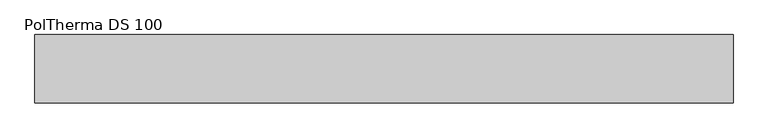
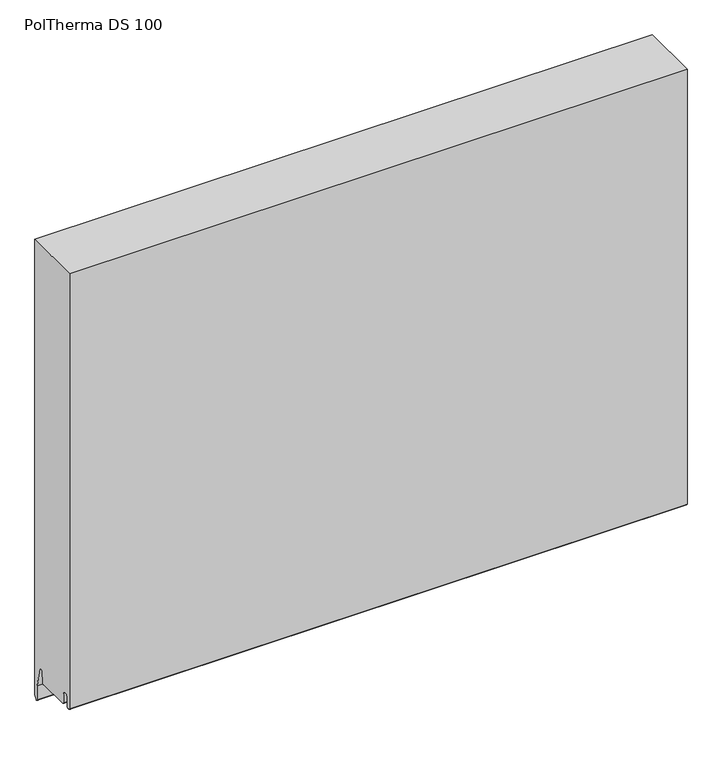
"""IFC4 building model written with IfcOpenShell, lengths in millimetres: plate geometry, Europanels_Poltherma DS_Hz : PolTherma DS 100."""

from ifc_helpers import new_model, si_unit, point, frame, frame_2d, origin, place, context, project, spatial, polyline, circle_curve, trimmed, segment, composite_curve, outline, extrude, source, transform, mapped, element, save


def poltherma_ds_100_4dea5682(model_context):
    return source(origin(), model_context, "Body", "SweptSolid", [
        extrude(outline(composite_curve([segment(polyline([(50.0, 25.6419265), (46.7337298, 19.9625485)]), True, "CONTINUOUS"), segment(trimmed(circle_curve(frame_2d((45.0, 20.9596348)), 2.0), [point((46.7337298, 19.9625485))], [point((43.0, 20.9596348))], False, "CARTESIAN"), True, "CONTINUOUS"), segment(polyline([(43.0, 20.9596348), (43.0, 46.1009555), (36.5910205, 79.139881)]), True, "CONTINUOUS"), segment(trimmed(circle_curve(frame_2d((34.241537, 78.2855234)), 2.5), [point((36.5910205, 79.139881))], [point((34.241537, 80.7855234))], True, "CARTESIAN"), True, "CONTINUOUS"), segment(polyline([(34.241537, 80.7855234), (30.834547, 80.7855234)]), True, "CONTINUOUS"), segment(trimmed(circle_curve(frame_2d((30.834547, 78.2855234)), 2.5), [point((30.834547, 80.7855234))], [point((28.3408974, 78.4636008))], True, "CARTESIAN"), True, "CONTINUOUS"), segment(polyline([(28.3408974, 78.4636008), (27.6811293, 60.6896109)]), True, "CONTINUOUS"), segment(trimmed(circle_curve(frame_2d((25.1828499, 60.7823467)), 2.5), [point((27.6811293, 60.6896109))], [point((25.1828499, 58.2823467))], False, "CARTESIAN"), True, "CONTINUOUS"), segment(polyline([(25.1828499, 58.2823467), (-30.600093, 59.7823467)]), True, "CONTINUOUS"), segment(trimmed(circle_curve(frame_2d((-30.600093, 61.5323467)), 1.75), [point((-30.600093, 59.7823467))], [point((-32.3401385, 61.3459555))], False, "CARTESIAN"), True, "CONTINUOUS"), segment(polyline([(-32.3401385, 61.3459555), (-33.3927633, 79.6050511)]), True, "CONTINUOUS"), segment(trimmed(circle_curve(frame_2d((-36.3756985, 79.2855234)), 3.0), [point((-33.3927633, 79.6050511))], [point((-36.3756985, 82.2855234))], True, "CARTESIAN"), True, "CONTINUOUS"), segment(polyline([(-36.3756985, 82.2855234), (-39.3243673, 82.2855234)]), True, "CONTINUOUS"), segment(trimmed(circle_curve(frame_2d((-39.3243673, 79.2855234)), 3.0), [point((-39.3243673, 82.2855234))], [point((-42.3087485, 79.5912504))], True, "CARTESIAN"), True, "CONTINUOUS"), segment(polyline([(-42.3087485, 79.5912504), (-43.283254, 61.5785287)]), True, "CONTINUOUS"), segment(trimmed(circle_curve(frame_2d((-45.2728415, 61.7823467)), 2.0), [point((-43.283254, 61.5785287))], [point((-45.2728415, 59.7823467))], False, "CARTESIAN"), True, "CONTINUOUS"), segment(polyline([(-45.2728415, 59.7823467), (-48.0, 59.7823467)]), True, "CONTINUOUS"), segment(trimmed(circle_curve(frame_2d((-48.0, 61.7823467)), 2.0), [point((-48.0, 59.7823467))], [point((-50.0, 61.7823467))], False, "CARTESIAN"), True, "CONTINUOUS"), segment(polyline([(-50.0, 61.7823467), (-50.0, 825.0), (50.0, 825.0), (50.0, 25.6419265)]), True, "CONTINUOUS")], self_intersect=False)), frame((-512.5, 0.0, 0.0), z_axis=(1.0, 0.0, 0.0), x_axis=(0.0, 1.0, 0.0)), (0.0, 0.0, 1.0), 1025.0),
    ])


if __name__ == "__main__":
    model = new_model("IFC4")
    model_context = context("Model", 3, world=origin())
    ifc_project = project(units=[si_unit("LENGTHUNIT", "METRE", prefix="MILLI")], contexts=[model_context])
    site = spatial("IfcSite", under=ifc_project)
    building = spatial("IfcBuilding", under=site)
    placement = place(None, origin())
    poltherma_ds_100_shape = poltherma_ds_100_4dea5682(model_context)
    element("IfcPlate", 1, ObjectType="Europanels_Poltherma DS_Hz : PolTherma DS 100", at=placement, inside=building, context=model_context, shape_type="MappedRepresentation", body=[
        mapped(poltherma_ds_100_shape, transform((0.0, 0.0, 0.0), x_axis=(1.0, 0.0, 0.0), y_axis=(0.0, 1.0, 0.0), z_axis=(0.0, 0.0, 1.0))),
    ])
    save(model, "model.ifc")
